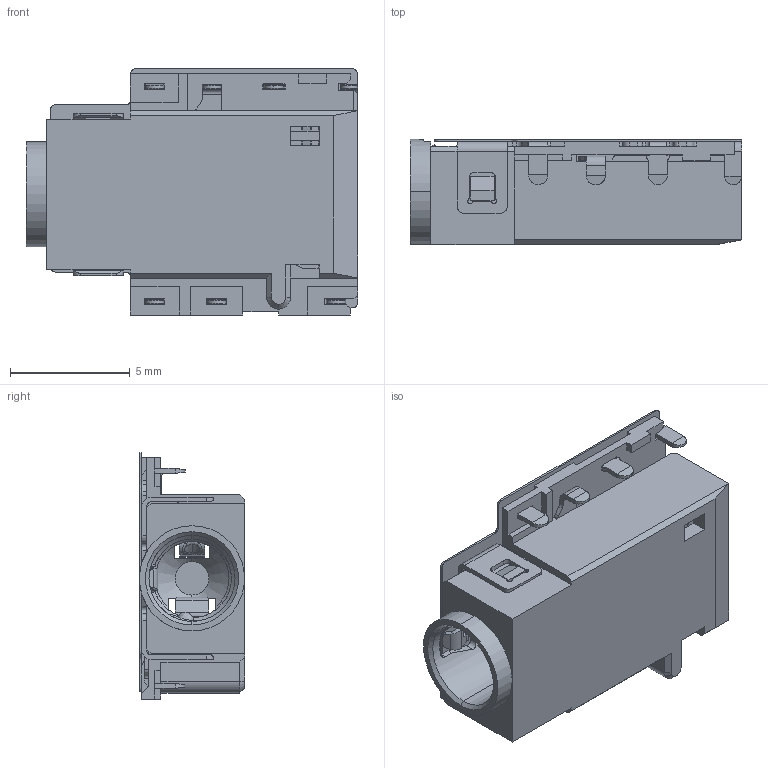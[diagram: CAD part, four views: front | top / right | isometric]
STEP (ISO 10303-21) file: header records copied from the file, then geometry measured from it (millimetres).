
FILE_DESCRIPTION (( 'STEP AP203' ), '1' );
FILE_NAME ('J3B-7 3D.STEP', '2020-09-09T11:29:06', ( '' ), ( '' ), 'SwSTEP 2.0', 'SolidWorks 2016', '' );
FILE_SCHEMA (( 'CONFIG_CONTROL_DESIGN' ));
Length unit declared in the file: millimetre
Products named in the file (1): J3B-7 3D
Bounding box: 13.85 x 4.4 x 10.3 mm (x, y, z)
Volume: 255.9 mm3; surface area: 1077.1 mm2
Topology: 2 solids, 2 shells, 1055 faces, 3024 edges, 1917 vertices
Faces by surface type: plane 655, cylinder 325, bspline 61, cone 14
Entity records: 37345 total; most frequent: CARTESIAN_POINT 9923, ORIENTED_EDGE 6018, DIRECTION 5392, EDGE_CURVE 3009, LINE 2184, VECTOR 2184, VERTEX_POINT 1918, AXIS2_PLACEMENT_3D 1604
